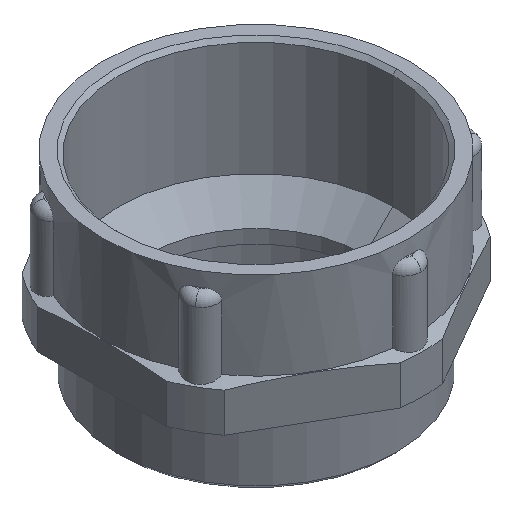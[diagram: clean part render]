
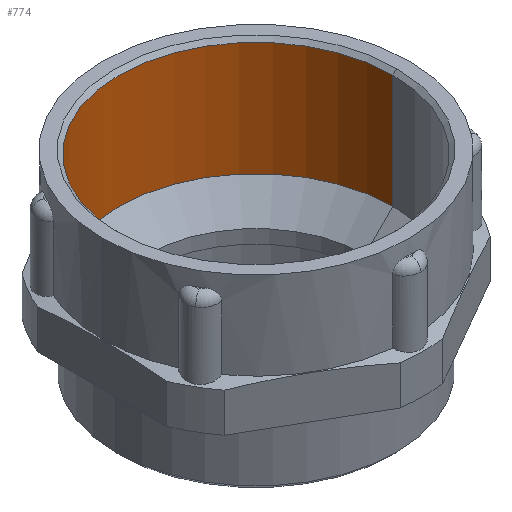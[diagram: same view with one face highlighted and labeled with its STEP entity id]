
A CAD part, isometric view. The second image highlights one B-rep face of the part: STEP entity #774.
In plain terms, the highlighted cylindrical face has radius 28.89 mm (diameter 57.78 mm), a partial arc.
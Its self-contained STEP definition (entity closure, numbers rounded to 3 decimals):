
#485 = VERTEX_POINT ( 'NONE', #1716 ) ;
#486 = VERTEX_POINT ( 'NONE', #1715 ) ;
#584 = VERTEX_POINT ( 'NONE', #1995 ) ;
#586 = EDGE_CURVE ( 'NONE', #485, #584, #1994, .T. ) ;
#590 = VERTEX_POINT ( 'NONE', #1979 ) ;
#594 = EDGE_CURVE ( 'NONE', #486, #590, #1974, .T. ) ;
#774 = ADVANCED_FACE ( 'NONE', ( #2492 ), #2490, .F. ) ;
#775 = EDGE_LOOP ( 'NONE', ( #776, #777, #779, #780 ) ) ;
#776 = ORIENTED_EDGE ( 'NONE', *, *, #594, .F. ) ;
#777 = ORIENTED_EDGE ( 'NONE', *, *, #778, .T. ) ;
#778 = EDGE_CURVE ( 'NONE', #486, #485, #2485, .T. ) ;
#779 = ORIENTED_EDGE ( 'NONE', *, *, #586, .T. ) ;
#780 = ORIENTED_EDGE ( 'NONE', *, *, #781, .T. ) ;
#781 = EDGE_CURVE ( 'NONE', #584, #590, #2481, .T. ) ;
#1715 = CARTESIAN_POINT ( 'NONE',  ( 28.89, 0., 40.7 ) ) ;
#1716 = CARTESIAN_POINT ( 'NONE',  ( -28.89, 0., 40.7 ) ) ;
#1973 = CARTESIAN_POINT ( 'NONE',  ( 28.89, 0., 0. ) ) ;
#1974 = LINE ( 'NONE', #1973, #2034 ) ;
#1979 = CARTESIAN_POINT ( 'NONE',  ( 28.89, 0., 16.7 ) ) ;
#1991 = DIRECTION ( 'NONE',  ( 0., 0., -1. ) ) ;
#1992 = VECTOR ( 'NONE', #1991, 1000. ) ;
#1993 = CARTESIAN_POINT ( 'NONE',  ( -28.89, 0., 0. ) ) ;
#1994 = LINE ( 'NONE', #1993, #1992 ) ;
#1995 = CARTESIAN_POINT ( 'NONE',  ( -28.89, 0., 16.7 ) ) ;
#2033 = DIRECTION ( 'NONE',  ( 0., 0., -1. ) ) ;
#2034 = VECTOR ( 'NONE', #2033, 1000. ) ;
#2477 = DIRECTION ( 'NONE',  ( -1., 0., 0. ) ) ;
#2478 = DIRECTION ( 'NONE',  ( 0., 0., -1. ) ) ;
#2479 = CARTESIAN_POINT ( 'NONE',  ( 0., 0., 16.7 ) ) ;
#2480 = AXIS2_PLACEMENT_3D ( 'NONE', #2479, #2478, #2477 ) ;
#2481 = CIRCLE ( 'NONE', #2480, 28.89 ) ;
#2482 = DIRECTION ( 'NONE',  ( -1., 0., 0. ) ) ;
#2483 = DIRECTION ( 'NONE',  ( 0., 0., 1. ) ) ;
#2484 = AXIS2_PLACEMENT_3D ( 'NONE', #2491, #2483, #2482 ) ;
#2485 = CIRCLE ( 'NONE', #2484, 28.89 ) ;
#2486 = DIRECTION ( 'NONE',  ( -1., 0., 0. ) ) ;
#2487 = DIRECTION ( 'NONE',  ( 0., 0., -1. ) ) ;
#2488 = CARTESIAN_POINT ( 'NONE',  ( 0., 0., 0. ) ) ;
#2489 = AXIS2_PLACEMENT_3D ( 'NONE', #2488, #2487, #2486 ) ;
#2490 = CYLINDRICAL_SURFACE ( 'NONE', #2489, 28.89 ) ;
#2491 = CARTESIAN_POINT ( 'NONE',  ( 0., 0., 40.7 ) ) ;
#2492 = FACE_OUTER_BOUND ( 'NONE', #775, .T. ) ;
